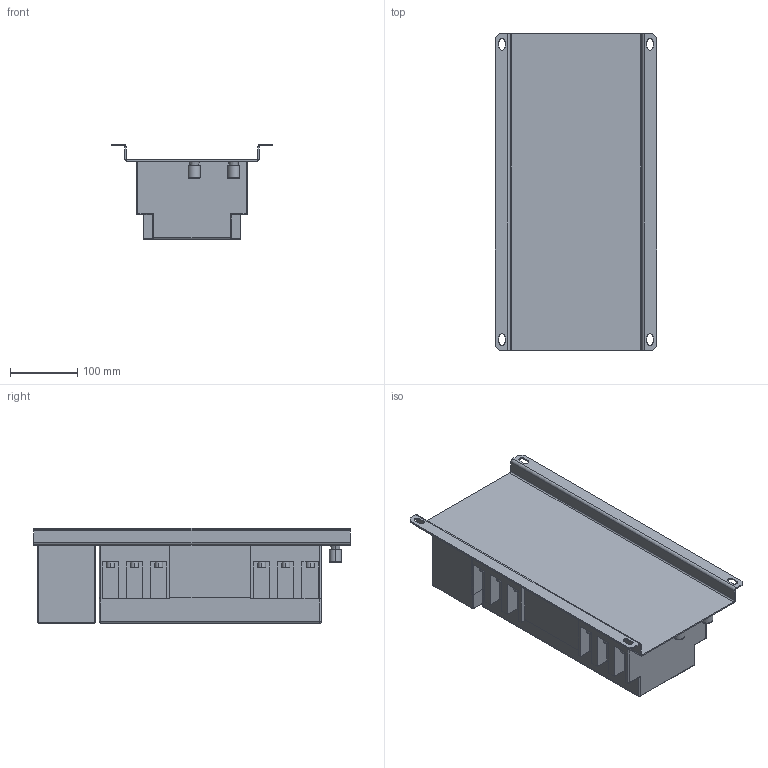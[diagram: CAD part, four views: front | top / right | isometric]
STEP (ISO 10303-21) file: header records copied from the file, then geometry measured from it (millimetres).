
FILE_DESCRIPTION (( 'STEP AP203' ), '1' );
FILE_NAME ('Óñòðîéñòâî ÀÂÐ ÒÑÌ 225-125À 3ð.STEP', '2018-05-23T11:18:37', ( '' ), ( '' ), 'SwSTEP 2.0', 'SolidWorks 2017', '' );
FILE_SCHEMA (( 'CONFIG_CONTROL_DESIGN' ));
Length unit declared in the file: millimetre
Products named in the file (1): Óñòðîéñòâî ÀÂÐ ÒÑÌ 225-125À 3ð
Bounding box: 240 x 470 x 142 mm (x, y, z)
Volume: 7000208.3 mm3; surface area: 468219.7 mm2
Topology: 1 solids, 1 shells, 380 faces, 948 edges, 606 vertices
Faces by surface type: plane 256, cylinder 82, torus 30, sphere 8, cone 4
Entity records: 11237 total; most frequent: CARTESIAN_POINT 1951, DIRECTION 1910, ORIENTED_EDGE 1880, EDGE_CURVE 940, VECTOR 716, LINE 716, VERTEX_POINT 606, AXIS2_PLACEMENT_3D 597
